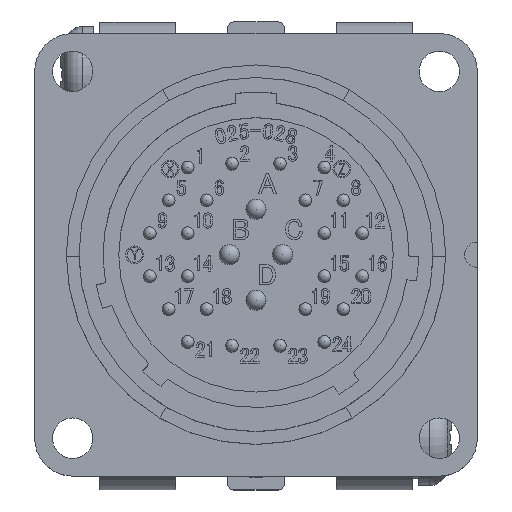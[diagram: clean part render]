
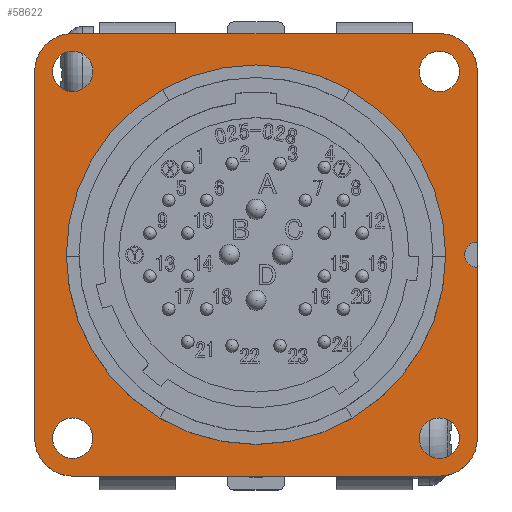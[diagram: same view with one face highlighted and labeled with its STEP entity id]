
A CAD part, top view. The second image highlights one B-rep face of the part: STEP entity #58622.
In plain terms, the highlighted planar face has unit normal (0, 0, 1).
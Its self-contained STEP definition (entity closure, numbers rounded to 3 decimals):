
#81 = EDGE_CURVE ( 'NONE', #6006, #6006, #85042, .T. ) ;
#964 = VECTOR ( 'NONE', #97041, 1000. ) ;
#2471 = CARTESIAN_POINT ( 'NONE',  ( 14.5, 16.1, -10.5 ) ) ;
#3250 = CARTESIAN_POINT ( 'NONE',  ( -14.5, -14.5, -10.5 ) ) ;
#3610 = EDGE_CURVE ( 'NONE', #51963, #51963, #20018, .T. ) ;
#6006 = VERTEX_POINT ( 'NONE', #76364 ) ;
#6054 = CARTESIAN_POINT ( 'NONE',  ( 17.5, 0., -10.5 ) ) ;
#6093 = EDGE_LOOP ( 'NONE', ( #62066 ) ) ;
#6451 = CARTESIAN_POINT ( 'NONE',  ( 14.5, -14.5, -10.5 ) ) ;
#6454 = EDGE_CURVE ( 'NONE', #36082, #19332, #109064, .T. ) ;
#7141 = ORIENTED_EDGE ( 'NONE', *, *, #87155, .T. ) ;
#7896 = AXIS2_PLACEMENT_3D ( 'NONE', #38369, #22164, #81020 ) ;
#8278 = CARTESIAN_POINT ( 'NONE',  ( 14.5, 17.5, -10.5 ) ) ;
#10035 = CARTESIAN_POINT ( 'NONE',  ( 14.5, -14.5, -10.5 ) ) ;
#10996 = DIRECTION ( 'NONE',  ( 0., -1., 0. ) ) ;
#12156 = AXIS2_PLACEMENT_3D ( 'NONE', #61316, #54277, #96533 ) ;
#13771 = PLANE ( 'NONE',  #7896 ) ;
#13895 = DIRECTION ( 'NONE',  ( 1., 0., 0. ) ) ;
#14268 = DIRECTION ( 'NONE',  ( 0., 0., 1. ) ) ;
#14721 = EDGE_LOOP ( 'NONE', ( #32841 ) ) ;
#14745 = DIRECTION ( 'NONE',  ( 0., 1., 0. ) ) ;
#14849 = DIRECTION ( 'NONE',  ( 0., -1., 0. ) ) ;
#16677 = CARTESIAN_POINT ( 'NONE',  ( 17.5, 0., -10.5 ) ) ;
#16760 = CARTESIAN_POINT ( 'NONE',  ( 14.5, -17.5, -10.5 ) ) ;
#19332 = VERTEX_POINT ( 'NONE', #96278 ) ;
#19383 = ORIENTED_EDGE ( 'NONE', *, *, #3610, .T. ) ;
#20018 = CIRCLE ( 'NONE', #61504, 15. ) ;
#21532 = FACE_BOUND ( 'NONE', #6093, .T. ) ;
#21619 = VERTEX_POINT ( 'NONE', #2471 ) ;
#21674 = EDGE_LOOP ( 'NONE', ( #94353 ) ) ;
#22164 = DIRECTION ( 'NONE',  ( 0., 0., -1. ) ) ;
#23680 = DIRECTION ( 'NONE',  ( 0., 0., -1. ) ) ;
#24634 = CIRCLE ( 'NONE', #79444, 3. ) ;
#26696 = CARTESIAN_POINT ( 'NONE',  ( -15., 0., -10.5 ) ) ;
#30624 = CARTESIAN_POINT ( 'NONE',  ( -17.5, 14.5, -10.5 ) ) ;
#30727 = CIRCLE ( 'NONE', #75500, 1. ) ;
#30844 = CIRCLE ( 'NONE', #69981, 1.6 ) ;
#32841 = ORIENTED_EDGE ( 'NONE', *, *, #45281, .T. ) ;
#34255 = EDGE_LOOP ( 'NONE', ( #19383 ) ) ;
#36025 = VERTEX_POINT ( 'NONE', #70707 ) ;
#36082 = VERTEX_POINT ( 'NONE', #52792 ) ;
#38369 = CARTESIAN_POINT ( 'NONE',  ( 0., 17.5, -10.5 ) ) ;
#39097 = DIRECTION ( 'NONE',  ( 0., 0., -1. ) ) ;
#39697 = CARTESIAN_POINT ( 'NONE',  ( 16.1, -14.5, -10.5 ) ) ;
#40079 = EDGE_CURVE ( 'NONE', #44514, #108248, #60468, .T. ) ;
#40756 = DIRECTION ( 'NONE',  ( -1., 0., 0. ) ) ;
#41796 = EDGE_LOOP ( 'NONE', ( #83198, #101784, #66894, #79362, #71483, #86221, #90498, #72285, #61938, #88816 ) ) ;
#42570 = FACE_OUTER_BOUND ( 'NONE', #41796, .T. ) ;
#43029 = EDGE_CURVE ( 'NONE', #44514, #98214, #90359, .T. ) ;
#43944 = FACE_BOUND ( 'NONE', #34255, .T. ) ;
#44514 = VERTEX_POINT ( 'NONE', #82479 ) ;
#45281 = EDGE_CURVE ( 'NONE', #21619, #21619, #30844, .T. ) ;
#45534 = LINE ( 'NONE', #58089, #87638 ) ;
#46958 = DIRECTION ( 'NONE',  ( 0., 0., -1. ) ) ;
#47026 = CARTESIAN_POINT ( 'NONE',  ( 0., 17.5, -10.5 ) ) ;
#48779 = CIRCLE ( 'NONE', #90513, 1.6 ) ;
#49409 = CARTESIAN_POINT ( 'NONE',  ( -14.5, 14.5, -10.5 ) ) ;
#49727 = VECTOR ( 'NONE', #87688, 1000. ) ;
#51743 = EDGE_CURVE ( 'NONE', #64770, #91919, #72283, .T. ) ;
#51963 = VERTEX_POINT ( 'NONE', #26696 ) ;
#52792 = CARTESIAN_POINT ( 'NONE',  ( 17.5, -1., -10.5 ) ) ;
#54277 = DIRECTION ( 'NONE',  ( 0., 0., -1. ) ) ;
#54469 = EDGE_CURVE ( 'NONE', #74200, #91919, #77393, .T. ) ;
#56474 = CARTESIAN_POINT ( 'NONE',  ( 0., 0., -10.5 ) ) ;
#58089 = CARTESIAN_POINT ( 'NONE',  ( -17.5, 0., -10.5 ) ) ;
#58622 = ADVANCED_FACE ( 'NONE', ( #42570, #107076, #43944, #80765, #78142, #21532 ), #13771, .F. ) ;
#58815 = EDGE_CURVE ( 'NONE', #61033, #36082, #30727, .T. ) ;
#59736 = AXIS2_PLACEMENT_3D ( 'NONE', #3250, #86677, #10996 ) ;
#60468 = CIRCLE ( 'NONE', #93031, 3. ) ;
#61033 = VERTEX_POINT ( 'NONE', #87328 ) ;
#61316 = CARTESIAN_POINT ( 'NONE',  ( 14.5, 14.5, -10.5 ) ) ;
#61502 = VECTOR ( 'NONE', #14849, 1000. ) ;
#61504 = AXIS2_PLACEMENT_3D ( 'NONE', #56474, #64924, #90996 ) ;
#61938 = ORIENTED_EDGE ( 'NONE', *, *, #54469, .F. ) ;
#62066 = ORIENTED_EDGE ( 'NONE', *, *, #81, .T. ) ;
#62322 = CARTESIAN_POINT ( 'NONE',  ( 0., -17.5, -10.5 ) ) ;
#63014 = AXIS2_PLACEMENT_3D ( 'NONE', #6451, #39097, #107150 ) ;
#63199 = EDGE_CURVE ( 'NONE', #98214, #89379, #109174, .T. ) ;
#64770 = VERTEX_POINT ( 'NONE', #76669 ) ;
#64924 = DIRECTION ( 'NONE',  ( 0., 0., -1. ) ) ;
#65578 = VECTOR ( 'NONE', #108230, 1000. ) ;
#65811 = CARTESIAN_POINT ( 'NONE',  ( -14.5, 14.5, -10.5 ) ) ;
#66894 = ORIENTED_EDGE ( 'NONE', *, *, #92276, .F. ) ;
#68560 = EDGE_CURVE ( 'NONE', #71530, #71530, #73166, .T. ) ;
#69501 = AXIS2_PLACEMENT_3D ( 'NONE', #77942, #78303, #103676 ) ;
#69981 = AXIS2_PLACEMENT_3D ( 'NONE', #71943, #46958, #98068 ) ;
#70707 = CARTESIAN_POINT ( 'NONE',  ( -16.1, 14.5, -10.5 ) ) ;
#71324 = DIRECTION ( 'NONE',  ( -1., 0., 0. ) ) ;
#71483 = ORIENTED_EDGE ( 'NONE', *, *, #43029, .F. ) ;
#71530 = VERTEX_POINT ( 'NONE', #39697 ) ;
#71943 = CARTESIAN_POINT ( 'NONE',  ( 14.5, 14.5, -10.5 ) ) ;
#72283 = CIRCLE ( 'NONE', #69501, 3. ) ;
#72285 = ORIENTED_EDGE ( 'NONE', *, *, #51743, .T. ) ;
#73166 = CIRCLE ( 'NONE', #63014, 1.6 ) ;
#74200 = VERTEX_POINT ( 'NONE', #16760 ) ;
#75500 = AXIS2_PLACEMENT_3D ( 'NONE', #106179, #14268, #13895 ) ;
#76364 = CARTESIAN_POINT ( 'NONE',  ( -14.5, -16.1, -10.5 ) ) ;
#76669 = CARTESIAN_POINT ( 'NONE',  ( -17.5, -14.5, -10.5 ) ) ;
#77393 = LINE ( 'NONE', #62322, #49727 ) ;
#77942 = CARTESIAN_POINT ( 'NONE',  ( -14.5, -14.5, -10.5 ) ) ;
#78142 = FACE_BOUND ( 'NONE', #21674, .T. ) ;
#78303 = DIRECTION ( 'NONE',  ( 0., 0., 1. ) ) ;
#78595 = EDGE_CURVE ( 'NONE', #64770, #108248, #45534, .T. ) ;
#79362 = ORIENTED_EDGE ( 'NONE', *, *, #63199, .F. ) ;
#79444 = AXIS2_PLACEMENT_3D ( 'NONE', #10035, #85712, #71324 ) ;
#80765 = FACE_BOUND ( 'NONE', #14721, .T. ) ;
#81020 = DIRECTION ( 'NONE',  ( 0., -1., 0. ) ) ;
#82479 = CARTESIAN_POINT ( 'NONE',  ( -14.5, 17.5, -10.5 ) ) ;
#82487 = LINE ( 'NONE', #6054, #61502 ) ;
#82543 = DIRECTION ( 'NONE',  ( -1., 0., 0. ) ) ;
#83198 = ORIENTED_EDGE ( 'NONE', *, *, #6454, .F. ) ;
#85042 = CIRCLE ( 'NONE', #59736, 1.6 ) ;
#85712 = DIRECTION ( 'NONE',  ( 0., 0., 1. ) ) ;
#86221 = ORIENTED_EDGE ( 'NONE', *, *, #40079, .T. ) ;
#86677 = DIRECTION ( 'NONE',  ( 0., 0., -1. ) ) ;
#86973 = CARTESIAN_POINT ( 'NONE',  ( 17.5, 14.5, -10.5 ) ) ;
#87155 = EDGE_CURVE ( 'NONE', #36025, #36025, #48779, .T. ) ;
#87328 = CARTESIAN_POINT ( 'NONE',  ( 17.5, 1., -10.5 ) ) ;
#87638 = VECTOR ( 'NONE', #14745, 1000. ) ;
#87688 = DIRECTION ( 'NONE',  ( -1., 0., 0. ) ) ;
#88816 = ORIENTED_EDGE ( 'NONE', *, *, #91166, .T. ) ;
#89379 = VERTEX_POINT ( 'NONE', #86973 ) ;
#90359 = LINE ( 'NONE', #47026, #964 ) ;
#90498 = ORIENTED_EDGE ( 'NONE', *, *, #78595, .F. ) ;
#90513 = AXIS2_PLACEMENT_3D ( 'NONE', #49409, #23680, #82543 ) ;
#90996 = DIRECTION ( 'NONE',  ( -1., 0., 0. ) ) ;
#91139 = DIRECTION ( 'NONE',  ( 0., 0., 1. ) ) ;
#91166 = EDGE_CURVE ( 'NONE', #74200, #19332, #24634, .T. ) ;
#91919 = VERTEX_POINT ( 'NONE', #108347 ) ;
#92276 = EDGE_CURVE ( 'NONE', #89379, #61033, #82487, .T. ) ;
#93031 = AXIS2_PLACEMENT_3D ( 'NONE', #65811, #91139, #40756 ) ;
#94353 = ORIENTED_EDGE ( 'NONE', *, *, #68560, .T. ) ;
#96278 = CARTESIAN_POINT ( 'NONE',  ( 17.5, -14.5, -10.5 ) ) ;
#96533 = DIRECTION ( 'NONE',  ( -1., 0., 0. ) ) ;
#97041 = DIRECTION ( 'NONE',  ( 1., 0., 0. ) ) ;
#98068 = DIRECTION ( 'NONE',  ( 0., 1., 0. ) ) ;
#98214 = VERTEX_POINT ( 'NONE', #8278 ) ;
#101049 = EDGE_LOOP ( 'NONE', ( #7141 ) ) ;
#101784 = ORIENTED_EDGE ( 'NONE', *, *, #58815, .F. ) ;
#103676 = DIRECTION ( 'NONE',  ( -1., 0., 0. ) ) ;
#106179 = CARTESIAN_POINT ( 'NONE',  ( 17.5, 0., -10.5 ) ) ;
#107076 = FACE_BOUND ( 'NONE', #101049, .T. ) ;
#107150 = DIRECTION ( 'NONE',  ( 1., 0., 0. ) ) ;
#108230 = DIRECTION ( 'NONE',  ( 0., -1., 0. ) ) ;
#108248 = VERTEX_POINT ( 'NONE', #30624 ) ;
#108347 = CARTESIAN_POINT ( 'NONE',  ( -14.5, -17.5, -10.5 ) ) ;
#109064 = LINE ( 'NONE', #16677, #65578 ) ;
#109174 = CIRCLE ( 'NONE', #12156, 3. ) ;
